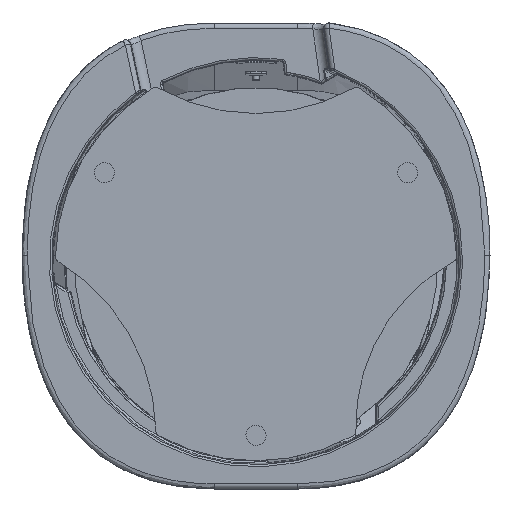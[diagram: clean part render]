
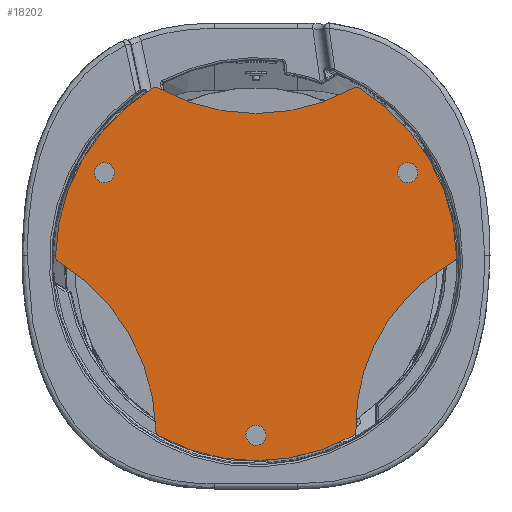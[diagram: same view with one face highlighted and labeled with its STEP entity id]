
A CAD part, front view. The second image highlights one B-rep face of the part: STEP entity #18202.
In plain terms, the highlighted planar face has unit normal (0, -1, 0).
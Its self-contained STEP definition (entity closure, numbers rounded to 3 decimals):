
#2228=FACE_BOUND('',#3834,.T.);
#2229=FACE_BOUND('',#3835,.T.);
#2230=FACE_BOUND('',#3836,.T.);
#2315=PLANE('',#19662);
#2639=FACE_OUTER_BOUND('',#3833,.T.);
#3833=EDGE_LOOP('',(#11914,#11915,#11916,#11917,#11918,#11919,#11920,#11921,
#11922,#11923,#11924,#11925));
#3834=EDGE_LOOP('',(#11926));
#3835=EDGE_LOOP('',(#11927));
#3836=EDGE_LOOP('',(#11928));
#6122=CIRCLE('',#19624,9.61);
#6127=CIRCLE('',#19634,9.61);
#6132=CIRCLE('',#19644,9.61);
#6146=CIRCLE('',#19663,192.5);
#6147=CIRCLE('',#19664,5.);
#6148=CIRCLE('',#19665,179.169);
#6149=CIRCLE('',#19666,5.);
#6150=CIRCLE('',#19667,192.5);
#6151=CIRCLE('',#19668,5.);
#6152=CIRCLE('',#19669,193.5);
#6153=CIRCLE('',#19670,5.);
#6154=CIRCLE('',#19671,192.5);
#6155=CIRCLE('',#19672,5.);
#6156=CIRCLE('',#19673,193.5);
#6157=CIRCLE('',#19674,5.);
#6915=VERTEX_POINT('',#24374);
#6920=VERTEX_POINT('',#24392);
#6925=VERTEX_POINT('',#24410);
#6939=VERTEX_POINT('',#24445);
#6940=VERTEX_POINT('',#24446);
#6941=VERTEX_POINT('',#24448);
#6942=VERTEX_POINT('',#24450);
#6943=VERTEX_POINT('',#24452);
#6944=VERTEX_POINT('',#24454);
#6945=VERTEX_POINT('',#24456);
#6946=VERTEX_POINT('',#24458);
#6947=VERTEX_POINT('',#24460);
#6948=VERTEX_POINT('',#24462);
#6949=VERTEX_POINT('',#24464);
#6950=VERTEX_POINT('',#24466);
#8706=EDGE_CURVE('',#6915,#6915,#6122,.T.);
#8714=EDGE_CURVE('',#6920,#6920,#6127,.T.);
#8722=EDGE_CURVE('',#6925,#6925,#6132,.T.);
#8737=EDGE_CURVE('',#6939,#6940,#6146,.T.);
#8738=EDGE_CURVE('',#6940,#6941,#6147,.T.);
#8739=EDGE_CURVE('',#6941,#6942,#6148,.T.);
#8740=EDGE_CURVE('',#6942,#6943,#6149,.T.);
#8741=EDGE_CURVE('',#6943,#6944,#6150,.T.);
#8742=EDGE_CURVE('',#6944,#6945,#6151,.T.);
#8743=EDGE_CURVE('',#6945,#6946,#6152,.T.);
#8744=EDGE_CURVE('',#6946,#6947,#6153,.T.);
#8745=EDGE_CURVE('',#6947,#6948,#6154,.T.);
#8746=EDGE_CURVE('',#6948,#6949,#6155,.T.);
#8747=EDGE_CURVE('',#6949,#6950,#6156,.T.);
#8748=EDGE_CURVE('',#6950,#6939,#6157,.T.);
#11914=ORIENTED_EDGE('',*,*,#8737,.T.);
#11915=ORIENTED_EDGE('',*,*,#8738,.T.);
#11916=ORIENTED_EDGE('',*,*,#8739,.T.);
#11917=ORIENTED_EDGE('',*,*,#8740,.T.);
#11918=ORIENTED_EDGE('',*,*,#8741,.T.);
#11919=ORIENTED_EDGE('',*,*,#8742,.T.);
#11920=ORIENTED_EDGE('',*,*,#8743,.T.);
#11921=ORIENTED_EDGE('',*,*,#8744,.T.);
#11922=ORIENTED_EDGE('',*,*,#8745,.T.);
#11923=ORIENTED_EDGE('',*,*,#8746,.T.);
#11924=ORIENTED_EDGE('',*,*,#8747,.T.);
#11925=ORIENTED_EDGE('',*,*,#8748,.T.);
#11926=ORIENTED_EDGE('',*,*,#8706,.T.);
#11927=ORIENTED_EDGE('',*,*,#8714,.T.);
#11928=ORIENTED_EDGE('',*,*,#8722,.T.);
#18202=ADVANCED_FACE('',(#2639,#2228,#2229,#2230),#2315,.T.);
#19624=AXIS2_PLACEMENT_3D('',#24376,#21506,#21507);
#19634=AXIS2_PLACEMENT_3D('',#24394,#21529,#21530);
#19644=AXIS2_PLACEMENT_3D('',#24412,#21552,#21553);
#19662=AXIS2_PLACEMENT_3D('',#24444,#21589,#21590);
#19663=AXIS2_PLACEMENT_3D('',#24447,#21591,#21592);
#19664=AXIS2_PLACEMENT_3D('',#24449,#21593,#21594);
#19665=AXIS2_PLACEMENT_3D('',#24451,#21595,#21596);
#19666=AXIS2_PLACEMENT_3D('',#24453,#21597,#21598);
#19667=AXIS2_PLACEMENT_3D('',#24455,#21599,#21600);
#19668=AXIS2_PLACEMENT_3D('',#24457,#21601,#21602);
#19669=AXIS2_PLACEMENT_3D('',#24459,#21603,#21604);
#19670=AXIS2_PLACEMENT_3D('',#24461,#21605,#21606);
#19671=AXIS2_PLACEMENT_3D('',#24463,#21607,#21608);
#19672=AXIS2_PLACEMENT_3D('',#24465,#21609,#21610);
#19673=AXIS2_PLACEMENT_3D('',#24467,#21611,#21612);
#19674=AXIS2_PLACEMENT_3D('',#24468,#21613,#21614);
#21506=DIRECTION('center_axis',(0.,1.,0.));
#21507=DIRECTION('ref_axis',(0.039,0.,0.999));
#21529=DIRECTION('center_axis',(0.,1.,0.));
#21530=DIRECTION('ref_axis',(-0.026,0.,1.));
#21552=DIRECTION('center_axis',(0.,1.,0.));
#21553=DIRECTION('ref_axis',(-0.043,0.,0.999));
#21589=DIRECTION('center_axis',(0.,-1.,0.));
#21590=DIRECTION('ref_axis',(-1.,0.,0.));
#21591=DIRECTION('center_axis',(0.,-1.,0.));
#21592=DIRECTION('ref_axis',(1.,0.,0.));
#21593=DIRECTION('center_axis',(0.,-1.,0.));
#21594=DIRECTION('ref_axis',(1.,0.,0.));
#21595=DIRECTION('center_axis',(0.,1.,0.));
#21596=DIRECTION('ref_axis',(1.,0.,0.));
#21597=DIRECTION('center_axis',(0.,-1.,0.));
#21598=DIRECTION('ref_axis',(1.,0.,0.));
#21599=DIRECTION('center_axis',(0.,-1.,0.));
#21600=DIRECTION('ref_axis',(1.,0.,0.));
#21601=DIRECTION('center_axis',(0.,-1.,0.));
#21602=DIRECTION('ref_axis',(1.,0.,0.));
#21603=DIRECTION('center_axis',(0.,1.,0.));
#21604=DIRECTION('ref_axis',(1.,0.,0.));
#21605=DIRECTION('center_axis',(0.,-1.,0.));
#21606=DIRECTION('ref_axis',(1.,0.,0.));
#21607=DIRECTION('center_axis',(0.,-1.,0.));
#21608=DIRECTION('ref_axis',(1.,0.,0.));
#21609=DIRECTION('center_axis',(0.,-1.,0.));
#21610=DIRECTION('ref_axis',(1.,0.,0.));
#21611=DIRECTION('center_axis',(0.,1.,0.));
#21612=DIRECTION('ref_axis',(1.,0.,0.));
#21613=DIRECTION('center_axis',(0.,-1.,0.));
#21614=DIRECTION('ref_axis',(1.,0.,0.));
#24374=CARTESIAN_POINT('',(-0.373,11.,-177.603));
#24376=CARTESIAN_POINT('Origin',(0.,11.,-168.));
#24392=CARTESIAN_POINT('',(145.746,11.,74.393));
#24394=CARTESIAN_POINT('Origin',(145.492,11.,84.));
#24410=CARTESIAN_POINT('',(-145.08,11.,74.399));
#24412=CARTESIAN_POINT('Origin',(-145.492,11.,84.));
#24444=CARTESIAN_POINT('Origin',(137.486,11.,-79.377));
#24445=CARTESIAN_POINT('',(-93.453,11.,-168.293));
#24446=CARTESIAN_POINT('',(93.301,11.,-168.378));
#24447=CARTESIAN_POINT('Origin',(0.,11.,0.));
#24448=CARTESIAN_POINT('',(95.876,11.,-163.862));
#24449=CARTESIAN_POINT('Origin',(90.878,11.,-164.004));
#24450=CARTESIAN_POINT('',(189.847,11.,-1.1));
#24451=CARTESIAN_POINT('Origin',(274.972,11.,-158.755));
#24452=CARTESIAN_POINT('',(192.47,11.,3.388));
#24453=CARTESIAN_POINT('Origin',(187.471,11.,3.3));
#24454=CARTESIAN_POINT('',(99.02,11.,165.08));
#24455=CARTESIAN_POINT('Origin',(0.,11.,0.));
#24456=CARTESIAN_POINT('',(94.018,11.,165.162));
#24457=CARTESIAN_POINT('Origin',(96.448,11.,160.792));
#24458=CARTESIAN_POINT('',(-94.018,11.,165.162));
#24459=CARTESIAN_POINT('Origin',(0.,11.,334.286));
#24460=CARTESIAN_POINT('',(-99.02,11.,165.08));
#24461=CARTESIAN_POINT('Origin',(-96.448,11.,160.792));
#24462=CARTESIAN_POINT('',(-192.473,11.,3.214));
#24463=CARTESIAN_POINT('Origin',(0.,11.,0.));
#24464=CARTESIAN_POINT('',(-190.044,11.,-1.159));
#24465=CARTESIAN_POINT('Origin',(-187.474,11.,3.13));
#24466=CARTESIAN_POINT('',(-96.025,11.,-164.003));
#24467=CARTESIAN_POINT('Origin',(-289.5,11.,-167.143));
#24468=CARTESIAN_POINT('Origin',(-91.026,11.,-163.922));
